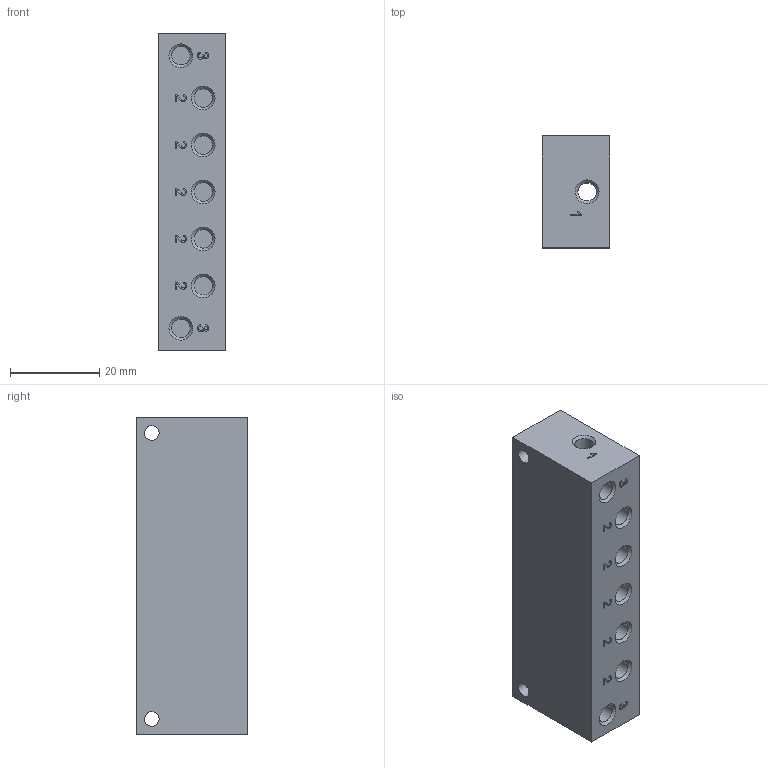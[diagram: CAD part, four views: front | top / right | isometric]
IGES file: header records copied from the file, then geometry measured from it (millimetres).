
Global section: file name: 395_05; native system: Autodesk Inventor 2014; preprocessor: unknown; author: R.Rivoltella; organization: Pneumax S.p.A.; date: 20161005.082405; units: millimetre
Bounding box: 15 x 25 x 71 mm (x, y, z)
Volume: 24666.4 mm3; surface area: 8297.6 mm2
Topology: 1 solids, 1 shells, 188 faces, 534 edges, 366 vertices
Faces by surface type: bspline 188
